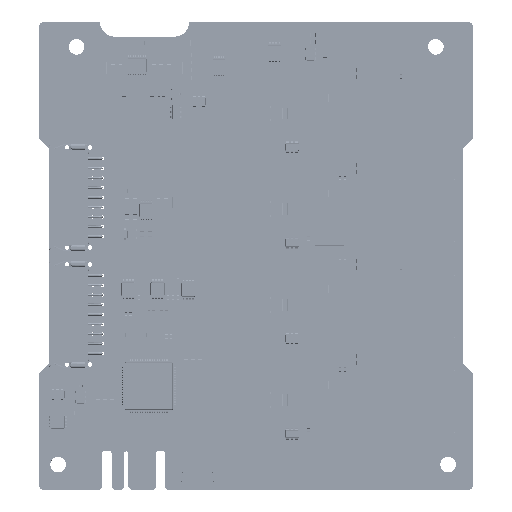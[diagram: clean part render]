
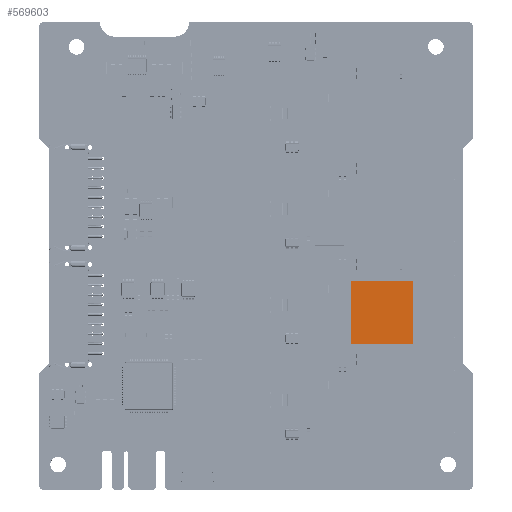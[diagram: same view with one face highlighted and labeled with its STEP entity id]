
A CAD part, top view. The second image highlights one B-rep face of the part: STEP entity #569603.
In plain terms, the highlighted planar face has unit normal (0, 0, 1).
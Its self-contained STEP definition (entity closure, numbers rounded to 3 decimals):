
#210159=DIRECTION('',(1.,0.,0.));
#210160=VECTOR('',#210159,12.75);
#210161=CARTESIAN_POINT('',(167.926,-110.203,7.415));
#210162=LINE('',#210161,#210160);
#210163=DIRECTION('',(0.,-1.,0.));
#210164=VECTOR('',#210163,12.802);
#210165=CARTESIAN_POINT('',(180.676,-110.203,7.415));
#210166=LINE('',#210165,#210164);
#210167=DIRECTION('',(-1.,0.,0.));
#210168=VECTOR('',#210167,12.75);
#210169=CARTESIAN_POINT('',(180.676,-123.005,7.415));
#210170=LINE('',#210169,#210168);
#210171=DIRECTION('',(0.,1.,0.));
#210172=VECTOR('',#210171,12.802);
#210173=CARTESIAN_POINT('',(167.926,-123.005,7.415));
#210174=LINE('',#210173,#210172);
#261659=CARTESIAN_POINT('',(167.926,-110.203,7.415));
#261660=CARTESIAN_POINT('',(180.676,-110.203,7.415));
#261661=VERTEX_POINT('',#261659);
#261662=VERTEX_POINT('',#261660);
#261663=CARTESIAN_POINT('',(180.676,-123.005,7.415));
#261664=VERTEX_POINT('',#261663);
#261665=CARTESIAN_POINT('',(167.926,-123.005,7.415));
#261666=VERTEX_POINT('',#261665);
#569592=CARTESIAN_POINT('',(174.301,-116.604,7.415));
#569593=DIRECTION('',(0.,0.,1.));
#569594=DIRECTION('',(0.,-1.,0.));
#569595=AXIS2_PLACEMENT_3D('',#569592,#569593,#569594);
#569596=PLANE('',#569595);
#569597=ORIENTED_EDGE('',*,*,#569544,.T.);
#569598=ORIENTED_EDGE('',*,*,#569559,.T.);
#569599=ORIENTED_EDGE('',*,*,#569573,.T.);
#569600=ORIENTED_EDGE('',*,*,#569586,.T.);
#569601=EDGE_LOOP('',(#569597,#569598,#569599,#569600));
#569602=FACE_OUTER_BOUND('',#569601,.F.);
#569603=ADVANCED_FACE('',(#569602),#569596,.T.);
#569544=EDGE_CURVE('',#261661,#261662,#210162,.T.);
#569559=EDGE_CURVE('',#261662,#261664,#210166,.T.);
#569573=EDGE_CURVE('',#261664,#261666,#210170,.T.);
#569586=EDGE_CURVE('',#261666,#261661,#210174,.T.);
